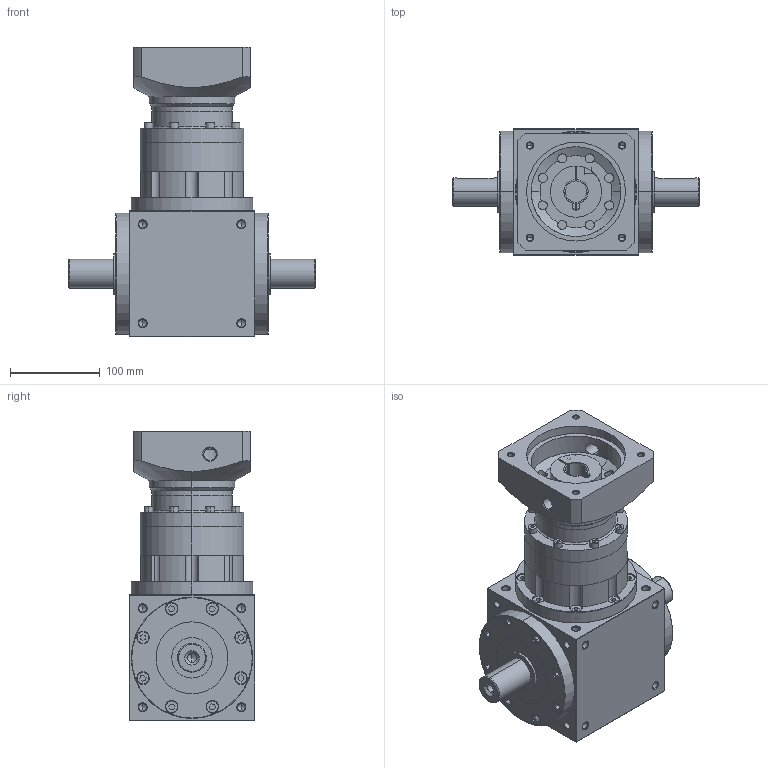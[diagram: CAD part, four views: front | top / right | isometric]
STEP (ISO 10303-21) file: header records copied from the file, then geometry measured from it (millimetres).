
FILE_DESCRIPTION (( 'STEP AP203' ), '1' );
FILE_NAME ('AT140-FL-L3-24-110-145M8.STEP', '2026-01-05T03:04:11', ( 'Windows User' ), ( 'P R C' ), 'SwSTEP 2.0', 'SolidWorks 2016', '' );
FILE_SCHEMA (( 'CONFIG_CONTROL_DESIGN' ));
Length unit declared in the file: millimetre
Products named in the file (7): 输入胀套-27; AT140-FL-L3-24-110-145M8; AT140转角箱体-双轴输出; AT140-蛌倰怀堤楊擘; AT140单级齿圈; AT140-双级齿圈; AT140输入法兰-F-110-M8-145
Assembly tree (6 placements, depth 2):
  AT140-FL-L3-24-110-145M8
    AT140转角箱体-双轴输出
    AT140-蛌倰怀堤楊擘
    AT140单级齿圈
    AT140-双级齿圈
    AT140输入法兰-F-110-M8-145
    输入胀套-27
Bounding box: 274 x 140 x 322 mm (x, y, z)
Volume: 3641882.9 mm3; surface area: 455941.4 mm2
Topology: 6 solids, 18 shells, 1662 faces, 4199 edges, 2652 vertices
Faces by surface type: plane 893, cylinder 375, cone 244, bspline 150
Entity records: 56435 total; most frequent: CARTESIAN_POINT 17133, ORIENTED_EDGE 8206, DIRECTION 7459, EDGE_CURVE 4103, VECTOR 2761, LINE 2761, VERTEX_POINT 2652, AXIS2_PLACEMENT_3D 2349
